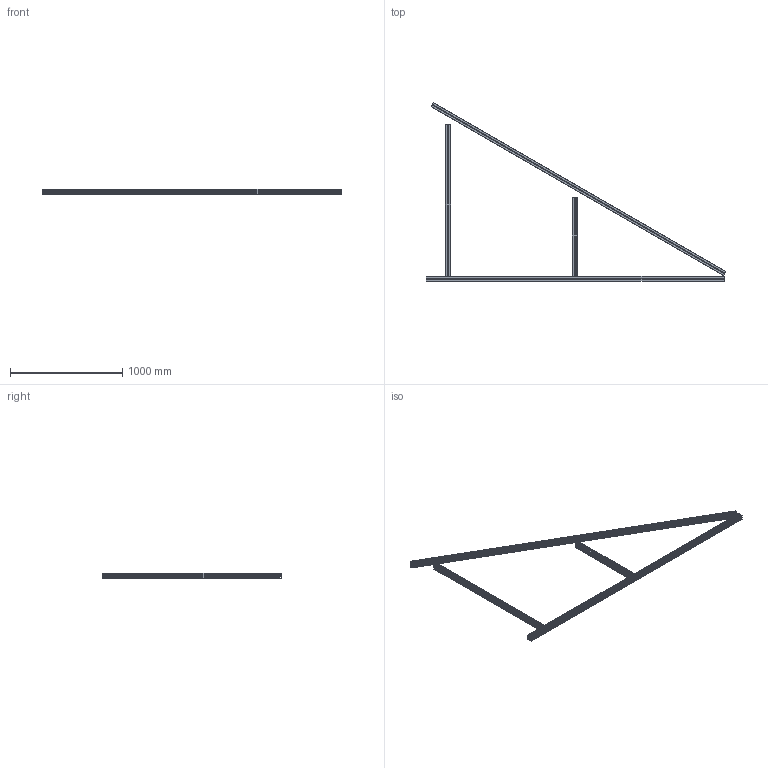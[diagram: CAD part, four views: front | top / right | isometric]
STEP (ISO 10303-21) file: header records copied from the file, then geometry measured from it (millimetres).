
FILE_DESCRIPTION (( 'STEP AP203' ), '1' );
FILE_NAME ('084.106.400.STEP', '2013-01-24T08:36:33', ( 'Alusic' ), ( 'Alusic' ), 'SwSTEP 2.0', 'SolidWorks 2011', '' );
FILE_SCHEMA (( 'CONFIG_CONTROL_DESIGN' ));
Length unit declared in the file: millimetre
Products named in the file (1): 084.106.400
Bounding box: 2662.5 x 1590.93 x 45 mm (x, y, z)
Volume: 4321751.5 mm3; surface area: 4344713.5 mm2
Topology: 4 solids, 4 shells, 632 faces, 1854 edges, 1228 vertices
Faces by surface type: plane 334, cylinder 298
Entity records: 21279 total; most frequent: CARTESIAN_POINT 3969, ORIENTED_EDGE 3708, DIRECTION 3592, EDGE_CURVE 1854, VECTOR 1266, LINE 1266, VERTEX_POINT 1228, AXIS2_PLACEMENT_3D 1163
